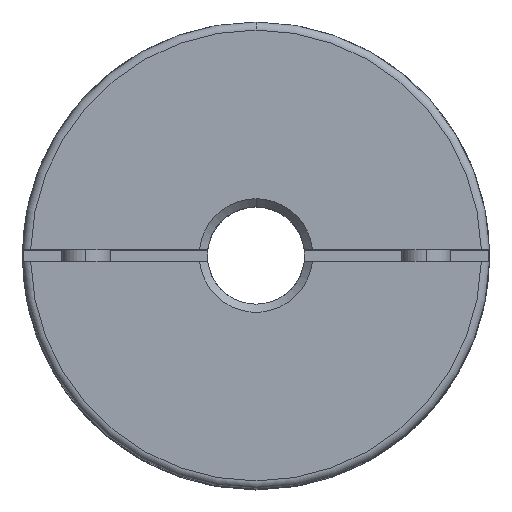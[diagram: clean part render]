
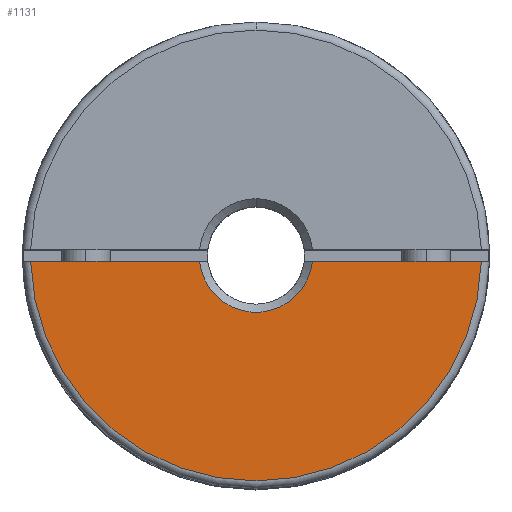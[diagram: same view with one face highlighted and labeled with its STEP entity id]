
A CAD part, top view. The second image highlights one B-rep face of the part: STEP entity #1131.
In plain terms, the highlighted planar face has unit normal (0, 0, 1).
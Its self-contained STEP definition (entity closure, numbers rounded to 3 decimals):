
#152 = CARTESIAN_POINT ( 'NONE',  ( -14.4, -0.35, 22.1 ) ) ;
#153 = DIRECTION ( 'NONE',  ( 1., 0., 0. ) ) ;
#188 = CARTESIAN_POINT ( 'NONE',  ( 0., 0., 22.1 ) ) ;
#189 = DIRECTION ( 'NONE',  ( 0., 0., 1. ) ) ;
#190 = DIRECTION ( 'NONE',  ( 0., 1., 0. ) ) ;
#429 = CARTESIAN_POINT ( 'NONE',  ( 0., 0., 22.1 ) ) ;
#431 = PLANE ( 'NONE',  #4692 ) ;
#434 = DIRECTION ( 'NONE',  ( 0., 0., 1. ) ) ;
#435 = DIRECTION ( 'NONE',  ( 0., 1., 0. ) ) ;
#656 = EDGE_CURVE ( 'NONE', #6516, #6156, #1527, .T. ) ;
#696 = EDGE_CURVE ( 'NONE', #5838, #6156, #1573, .T. ) ;
#970 = EDGE_CURVE ( 'NONE', #6516, #6168, #1952, .T. ) ;
#980 = EDGE_CURVE ( 'NONE', #5838, #6168, #1967, .T. ) ;
#1131 = ADVANCED_FACE ( 'NONE', ( #2107 ), #431, .T. ) ;
#1527 = CIRCLE ( 'NONE', #4450, 3.5 ) ;
#1573 = LINE ( 'NONE', #3850, #1577 ) ;
#1577 = VECTOR ( 'NONE', #3854, 1000. ) ;
#1952 = LINE ( 'NONE', #152, #1954 ) ;
#1954 = VECTOR ( 'NONE', #153, 1000. ) ;
#1967 = CIRCLE ( 'NONE', #4621, 13.9 ) ;
#2107 = FACE_OUTER_BOUND ( 'NONE', #5885, .T. ) ;
#2597 = ORIENTED_EDGE ( 'NONE', *, *, #970, .F. ) ;
#2653 = ORIENTED_EDGE ( 'NONE', *, *, #980, .T. ) ;
#2654 = ORIENTED_EDGE ( 'NONE', *, *, #656, .T. ) ;
#2671 = ORIENTED_EDGE ( 'NONE', *, *, #696, .F. ) ;
#3538 = CARTESIAN_POINT ( 'NONE',  ( -13.896, -0.35, 22.1 ) ) ;
#3596 = CARTESIAN_POINT ( 'NONE',  ( -3.482, -0.35, 22.1 ) ) ;
#3606 = CARTESIAN_POINT ( 'NONE',  ( 13.896, -0.35, 22.1 ) ) ;
#3850 = CARTESIAN_POINT ( 'NONE',  ( -14.4, -0.35, 22.1 ) ) ;
#3854 = DIRECTION ( 'NONE',  ( 1., 0., 0. ) ) ;
#4029 = DIRECTION ( 'NONE',  ( 0., 1., 0. ) ) ;
#4030 = DIRECTION ( 'NONE',  ( 0., 0., -1. ) ) ;
#4031 = CARTESIAN_POINT ( 'NONE',  ( 0., 0., 22.1 ) ) ;
#4450 = AXIS2_PLACEMENT_3D ( 'NONE', #4031, #4030, #4029 ) ;
#4621 = AXIS2_PLACEMENT_3D ( 'NONE', #188, #189, #190 ) ;
#4692 = AXIS2_PLACEMENT_3D ( 'NONE', #429, #434, #435 ) ;
#4944 = CARTESIAN_POINT ( 'NONE',  ( 3.482, -0.35, 22.1 ) ) ;
#5838 = VERTEX_POINT ( 'NONE', #3538 ) ;
#5885 = EDGE_LOOP ( 'NONE', ( #2671, #2653, #2597, #2654 ) ) ;
#6156 = VERTEX_POINT ( 'NONE', #3596 ) ;
#6168 = VERTEX_POINT ( 'NONE', #3606 ) ;
#6516 = VERTEX_POINT ( 'NONE', #4944 ) ;
